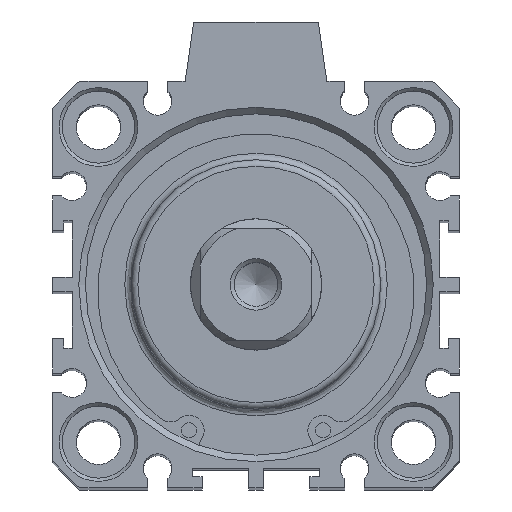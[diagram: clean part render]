
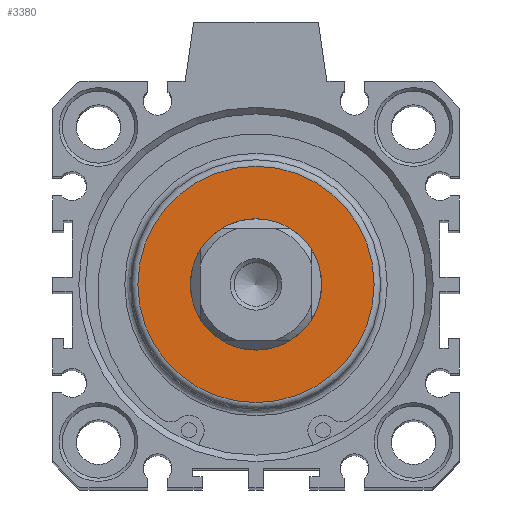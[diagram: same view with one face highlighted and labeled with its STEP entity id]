
A CAD part, top view. The second image highlights one B-rep face of the part: STEP entity #3380.
In plain terms, the highlighted planar face has unit normal (0, 0, 1).
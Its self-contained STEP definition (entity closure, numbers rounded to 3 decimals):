
#2900=CARTESIAN_POINT('',(-7.057,11.794,182.5));
#2901=VERTEX_POINT('',#2900);
#2902=CARTESIAN_POINT('',(-7.057,1.794,182.5));
#2903=DIRECTION('',(0.0,0.0,-1.0));
#2904=DIRECTION('',(0.0,1.0,0.0));
#2905=AXIS2_PLACEMENT_3D('',#2902,#2903,#2904);
#2906=CIRCLE('',#2905,10.);
#2907=EDGE_CURVE('',#2901,#2901,#2906,.T.);
#3354=CARTESIAN_POINT('',(-7.057,19.794,182.5));
#3355=VERTEX_POINT('',#3354);
#3356=CARTESIAN_POINT('',(-7.057,1.794,182.5));
#3357=DIRECTION('',(0.0,0.0,-1.0));
#3358=DIRECTION('',(0.0,-1.0,0.0));
#3359=AXIS2_PLACEMENT_3D('',#3356,#3357,#3358);
#3360=CIRCLE('',#3359,18.);
#3361=EDGE_CURVE('',#3355,#3355,#3360,.T.);
#3369=CARTESIAN_POINT('',(-7.057,11.294,182.5));
#3370=DIRECTION('',(0.0,0.0,1.0));
#3371=DIRECTION('',(1.0,0.0,0.0));
#3372=AXIS2_PLACEMENT_3D('',#3369,#3370,#3371);
#3373=PLANE('',#3372);
#3374=ORIENTED_EDGE('',*,*,#3361,.F.);
#3375=EDGE_LOOP('',(#3374));
#3376=FACE_OUTER_BOUND('',#3375,.T.);
#3377=ORIENTED_EDGE('',*,*,#2907,.T.);
#3378=EDGE_LOOP('',(#3377));
#3379=FACE_BOUND('',#3378,.T.);
#3380=ADVANCED_FACE('',(#3376,#3379),#3373,.T.);
